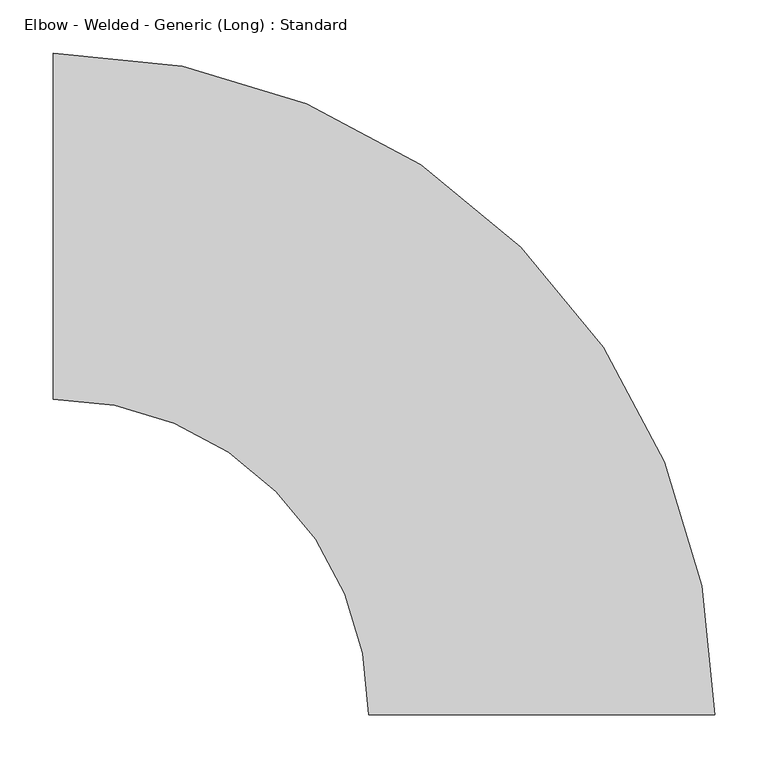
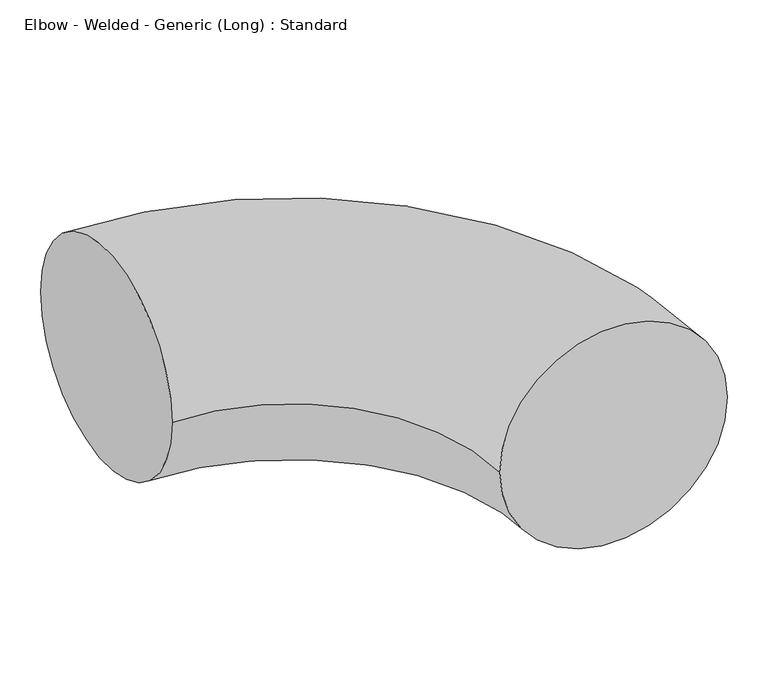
"""IFC4 building model written with IfcOpenShell, lengths in millimetres: pipe fitting geometry, Elbow - Welded - Generic (Long) : Standard."""

from ifc_helpers import new_model, si_unit, point, frame, origin, place, context, project, spatial, circle_curve, ellipse_curve, trimmed, source, transform, mapped, element, save
from ifc_brep_helpers import plane_surface, revolved_surface, advanced_brep


def elbow_welded_generic_long_standard_009dce0f(model_context):
    return source(origin(), model_context, "Body", "AdvancedBrep", [
        advanced_brep(
        [(-457.2, 161.925, 0.0), (-457.2, -161.925, 0.0), (161.925, -457.2, 0.0), (-161.925, -457.2, 0.0)],
        [
            (0, 1, circle_curve(frame((-457.2, 0.0, 0.0), z_axis=(-1.0, 0.0, 0.0), x_axis=(0.0, -1.0, 0.0)), 161.925)),
            (1, 0, circle_curve(frame((-457.2, 0.0, 0.0), z_axis=(-1.0, 0.0, 0.0), x_axis=(0.0, -1.0, 0.0)), 161.925)),
            (2, 3, circle_curve(frame((0.0, -457.2, 0.0), z_axis=(0.0, -1.0, 0.0), x_axis=(-1.0, 0.0, 0.0)), 161.925)),
            (3, 2, circle_curve(frame((0.0, -457.2, 0.0), z_axis=(0.0, -1.0, 0.0), x_axis=(-1.0, 0.0, 0.0)), 161.925)),
            (2, 0, circle_curve(frame((-457.2, -457.2, 0.0), z_axis=(0.0, 0.0, 1.0), x_axis=(0.0, 1.0, 0.0)), 619.125)),
            (1, 3, circle_curve(frame((-457.2, -457.2, 0.0), z_axis=(0.0, 0.0, -1.0), x_axis=(0.0, 1.0, 0.0)), 295.275)),
        ],
        [
            plane_surface(frame((-457.2, 0.0, 0.0), z_axis=(-1.0, 0.0, 0.0), x_axis=(0.0, 0.0, 1.0))),
            plane_surface(frame((0.0, -457.2, 0.0), z_axis=(0.0, -1.0, 0.0), x_axis=(0.0, 0.0, 1.0))),
            revolved_surface(trimmed(ellipse_curve(frame((-457.2, 0.0, 0.0), z_axis=(1.0, 0.0, 0.0), x_axis=(0.0, -1.0, 0.0)), 161.925, 161.925), [point((-457.2, 161.925, 0.0))], [point((-457.2, -161.925, 0.0))], True, "CARTESIAN"), (-457.2, -457.2, 0.0), (0.0, 0.0, 1.0)),
            revolved_surface(trimmed(ellipse_curve(frame((-457.2, 0.0, 0.0), z_axis=(1.0, 0.0, 0.0), x_axis=(0.0, -1.0, 0.0)), 161.925, 161.925), [point((-457.2, -161.925, 0.0))], [point((-457.2, 161.925, 0.0))], True, "CARTESIAN"), (-457.2, -457.2, 0.0), (0.0, 0.0, 1.0)),
        ],
        [
            (0, [[1, 2]]),
            (1, [[3, 4]]),
            (2, [[-3, 5, -2, 6]]),
            (3, [[-4, -6, -1, -5]]),
        ],
    ),
    ])


if __name__ == "__main__":
    model = new_model("IFC4")
    model_context = context("Model", 3, world=origin())
    ifc_project = project(units=[si_unit("LENGTHUNIT", "METRE", prefix="MILLI")], contexts=[model_context])
    site = spatial("IfcSite", under=ifc_project)
    building = spatial("IfcBuilding", under=site)
    placement = place(None, origin())
    elbow_welded_generic_long_standard_shape = elbow_welded_generic_long_standard_009dce0f(model_context)
    element("IfcPipeFitting", 1, ObjectType="Elbow - Welded - Generic (Long) : Standard", at=placement, inside=building, context=model_context, shape_type="MappedRepresentation", body=[
        mapped(elbow_welded_generic_long_standard_shape, transform((0.0, 0.0, 0.0), x_axis=(1.0, 0.0, 0.0), y_axis=(0.0, 1.0, 0.0), z_axis=(0.0, 0.0, 1.0))),
    ])
    save(model, "model.ifc")
